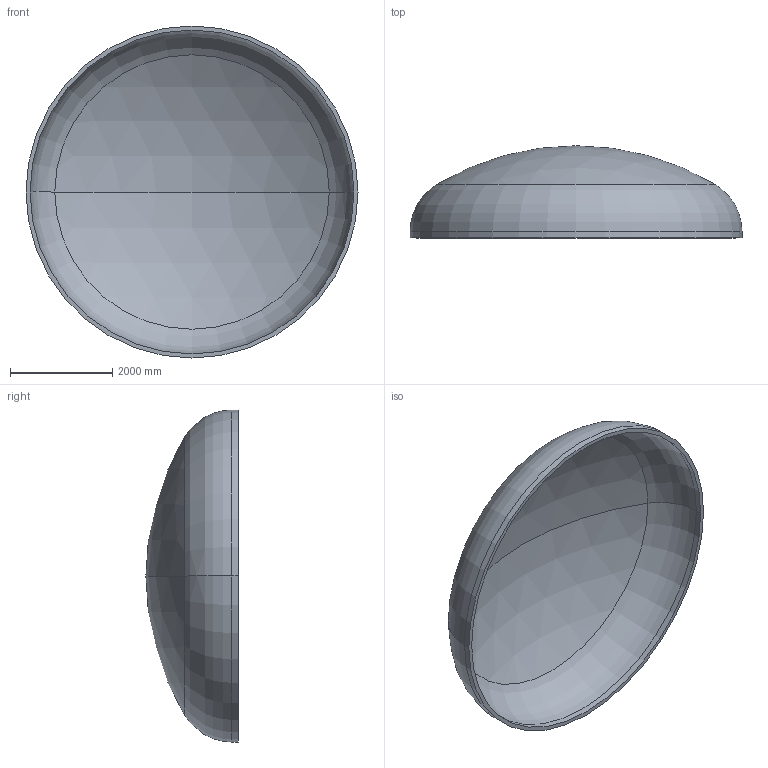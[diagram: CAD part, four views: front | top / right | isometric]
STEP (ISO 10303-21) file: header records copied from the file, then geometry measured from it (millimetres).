
FILE_DESCRIPTION (( 'STEP AP203' ), '1' );
FILE_NAME ('DIN 28013 Korbbogenform_-_Boden DIN 28013 - 6500 x 120 - I - s=80.step', '2016-07-04T10:43:20', ( '' ), ( '' ), 'SwSTEP 2.0', 'SolidWorks 2013', '' );
FILE_SCHEMA (( 'CONFIG_CONTROL_DESIGN' ));
Length unit declared in the file: millimetre
Products named in the file (1): DIN 28013 Korbbogenform_-_Boden DIN 28013 - 6500 x 120 - I - s=80
Bounding box: 6500 x 1804.02 x 6500 mm (x, y, z)
Volume: 3810217801.9 mm3; surface area: 96882335.1 mm2
Topology: 1 solids, 1 shells, 13 faces, 24 edges, 14 vertices
Faces by surface type: torus 4, cylinder 4, sphere 4, plane 1
Entity records: 407 total; most frequent: DIRECTION 72, CARTESIAN_POINT 52, ORIENTED_EDGE 48, AXIS2_PLACEMENT_3D 34, EDGE_CURVE 24, CIRCLE 20, VERTEX_POINT 14, EDGE_LOOP 14
